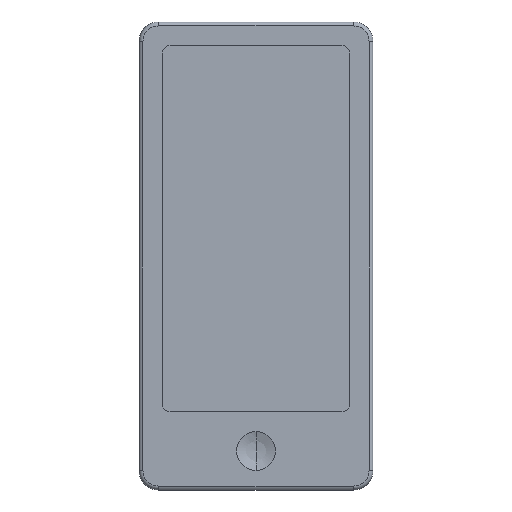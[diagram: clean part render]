
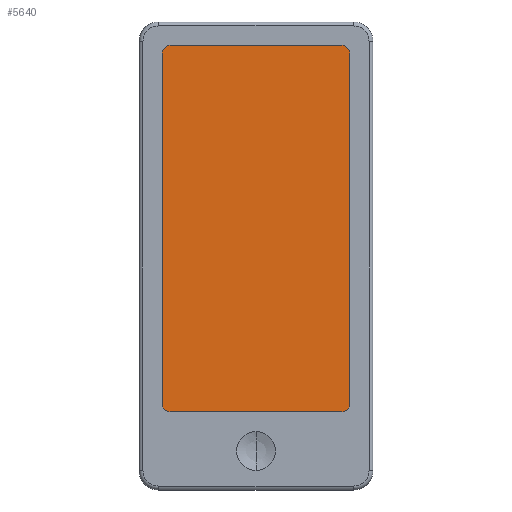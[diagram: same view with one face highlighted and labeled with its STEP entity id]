
A CAD part, top view. The second image highlights one B-rep face of the part: STEP entity #5640.
In plain terms, the highlighted planar face has unit normal (0, 0, 1).
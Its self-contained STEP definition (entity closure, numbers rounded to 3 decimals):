
#4110=CARTESIAN_POINT('',(52.,114.,-0.5));
#4120=VERTEX_POINT('',#4110);
#4150=CARTESIAN_POINT('',(6.,114.,-0.5));
#4160=DIRECTION('',(1.,0.,0.));
#4170=VECTOR('',#4160,1.);
#4180=LINE('',#4150,#4170);
#4190=CARTESIAN_POINT('',(8.,114.,-0.5));
#4200=VERTEX_POINT('',#4190);
#4210=EDGE_CURVE('',#4200,#4120,#4180,.T.);
#4420=CARTESIAN_POINT('',(6.,112.,-0.5));
#4430=VERTEX_POINT('',#4420);
#4460=CARTESIAN_POINT('',(6.,20.,-0.5));
#4470=DIRECTION('',(0.,1.,0.));
#4480=VECTOR('',#4470,1.);
#4490=LINE('',#4460,#4480);
#4500=CARTESIAN_POINT('',(6.,22.,-0.5));
#4510=VERTEX_POINT('',#4500);
#4520=EDGE_CURVE('',#4510,#4430,#4490,.T.);
#4680=CARTESIAN_POINT('',(54.,114.,-0.5));
#4690=DIRECTION('',(0.,-1.,0.));
#4700=VECTOR('',#4690,1.);
#4710=LINE('',#4680,#4700);
#4720=CARTESIAN_POINT('',(54.,112.,-0.5));
#4730=VERTEX_POINT('',#4720);
#4740=CARTESIAN_POINT('',(54.,22.,-0.5));
#4750=VERTEX_POINT('',#4740);
#4760=EDGE_CURVE('',#4730,#4750,#4710,.T.);
#4990=CARTESIAN_POINT('',(54.,20.,-0.5));
#5000=DIRECTION('',(-1.,0.,0.));
#5010=VECTOR('',#5000,1.);
#5020=LINE('',#4990,#5010);
#5030=CARTESIAN_POINT('',(52.,20.,-0.5));
#5040=VERTEX_POINT('',#5030);
#5050=CARTESIAN_POINT('',(8.,20.,-0.5));
#5060=VERTEX_POINT('',#5050);
#5070=EDGE_CURVE('',#5040,#5060,#5020,.T.);
#5250=CARTESIAN_POINT('',(0.,0.,-0.5));
#5260=DIRECTION('',(0.,0.,1.));
#5270=DIRECTION('',(1.,0.,-0.));
#5280=AXIS2_PLACEMENT_3D('',#5250,#5260,#5270);
#5290=PLANE('',#5280);
#5300=CARTESIAN_POINT('',(8.,112.,-0.5));
#5310=DIRECTION('',(0.,0.,-1.));
#5320=DIRECTION('',(-1.,0.,0.));
#5330=AXIS2_PLACEMENT_3D('',#5300,#5310,#5320);
#5340=CIRCLE('',#5330,2.);
#5350=EDGE_CURVE('',#4430,#4200,#5340,.T.);
#5360=ORIENTED_EDGE('',*,*,#5350,.F.);
#5370=ORIENTED_EDGE('',*,*,#4210,.F.);
#5380=CARTESIAN_POINT('',(52.,112.,-0.5));
#5390=DIRECTION('',(0.,0.,-1.));
#5400=DIRECTION('',(-1.,0.,0.));
#5410=AXIS2_PLACEMENT_3D('',#5380,#5390,#5400);
#5420=CIRCLE('',#5410,2.);
#5430=EDGE_CURVE('',#4120,#4730,#5420,.T.);
#5440=ORIENTED_EDGE('',*,*,#5430,.F.);
#5450=ORIENTED_EDGE('',*,*,#4760,.F.);
#5460=CARTESIAN_POINT('',(52.,22.,-0.5));
#5470=DIRECTION('',(0.,0.,-1.));
#5480=DIRECTION('',(-1.,0.,0.));
#5490=AXIS2_PLACEMENT_3D('',#5460,#5470,#5480);
#5500=CIRCLE('',#5490,2.);
#5510=EDGE_CURVE('',#4750,#5040,#5500,.T.);
#5520=ORIENTED_EDGE('',*,*,#5510,.F.);
#5530=ORIENTED_EDGE('',*,*,#5070,.F.);
#5540=CARTESIAN_POINT('',(8.,22.,-0.5));
#5550=DIRECTION('',(0.,0.,-1.));
#5560=DIRECTION('',(-1.,0.,0.));
#5570=AXIS2_PLACEMENT_3D('',#5540,#5550,#5560);
#5580=CIRCLE('',#5570,2.);
#5590=EDGE_CURVE('',#5060,#4510,#5580,.T.);
#5600=ORIENTED_EDGE('',*,*,#5590,.F.);
#5610=ORIENTED_EDGE('',*,*,#4520,.F.);
#5620=EDGE_LOOP('',(#5610,#5600,#5530,#5520,#5450,#5440,#5370,#5360));
#5630=FACE_OUTER_BOUND('',#5620,.T.);
#5640=ADVANCED_FACE('',(#5630),#5290,.T.);
